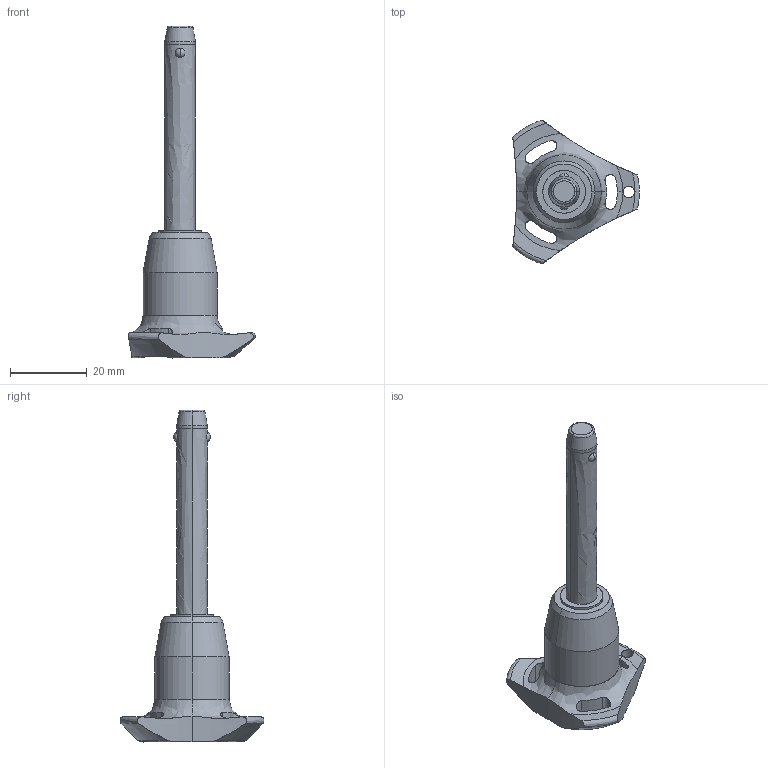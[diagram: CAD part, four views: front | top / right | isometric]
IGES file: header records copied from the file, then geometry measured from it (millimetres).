
Start section: SolidWorks IGES file using analytic representation for surfaces
Global section: file name: C:\Users\ianosborn\Desktop\QR1716_v2\QR1716_v2_20251114_IGES\QR1716.M08-045-T.igs; native system: SolidWorks 2019; preprocessor: SolidWorks 2019; author: IanOsborn; date: 251113.103039; units: millimetre
Bounding box: 33 x 37.51 x 86.5 mm (x, y, z)
Surface area: 5185.7 mm2 (no closed solid volume)
Topology: 0 solids, 0 shells, 68 faces, 1346 edges, 1342 vertices
Faces by surface type: revolution 52, bspline 16
